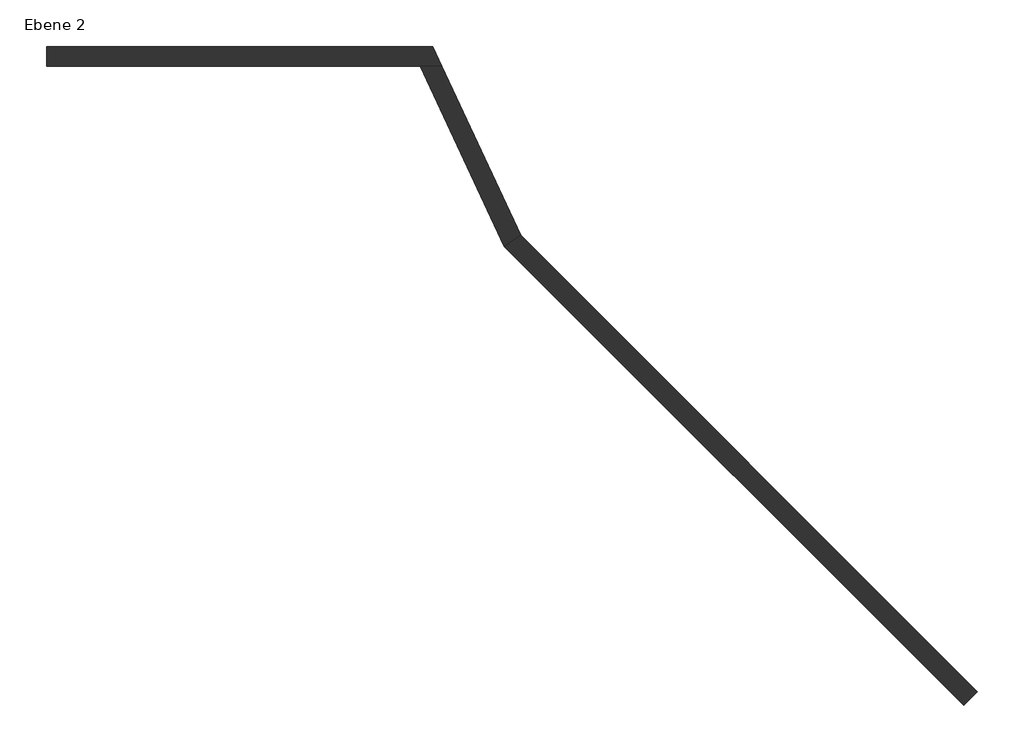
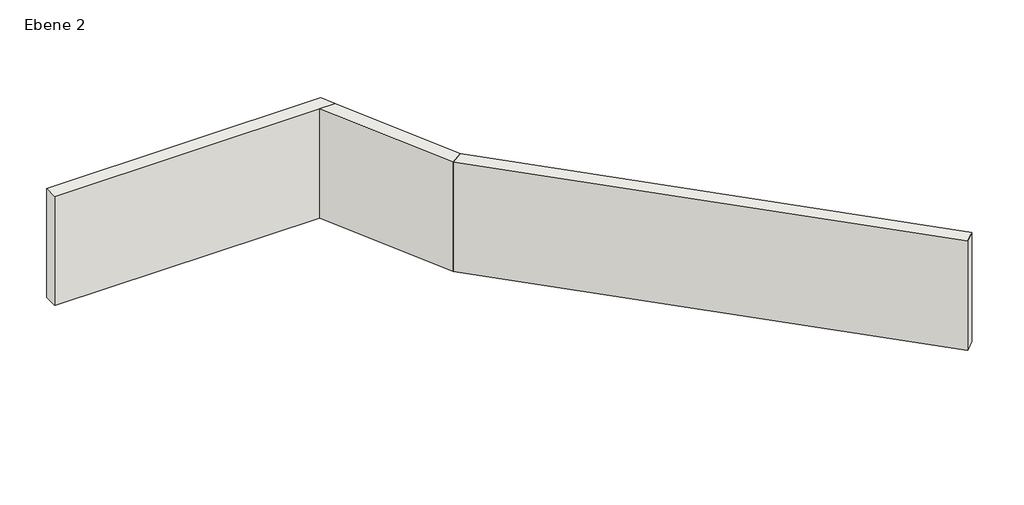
# One storey: 3 walls.
"""IFC4 building model written with IfcOpenShell, lengths in millimetres."""

from ifc_helpers import new_model, si_unit, frame, origin, place, context, project, spatial, polyline, outline, extrude, faceted_brep, element, save

model = new_model("IFC4")

# Units and contexts
model_context = context("Model", 3, world=origin())
ifc_project = project(units=[si_unit("LENGTHUNIT", "METRE", prefix="MILLI")], contexts=[model_context])

# Site, building, storey
site = spatial("IfcSite", under=ifc_project)
building = spatial("IfcBuilding", under=site)
storey = spatial("IfcBuildingStorey", under=building, Name="Ebene 2", Elevation=6000.0)

# Walls
placement = place(None, origin())
element("IfcWall", 1, ObjectType="MW 24.0 WD 12.0", at=placement, inside=storey, context=model_context, shape_type="Brep", body=[
    faceted_brep([(-8346.7849545, 5247.6869947, 6000.0), (-1461.4576015, 5247.6869947, 6000.0), (-1064.2415507, 5247.6869947, 6000.0), (-1064.2415507, 5247.6869947, 9000.0), (-1461.4576015, 5247.6869947, 9000.0), (-8346.7849545, 5247.6869947, 9000.0), (-8346.7849545, 5607.6869947, 6000.0), (-8346.7849545, 5607.6869947, 9000.0), (-1232.1123076, 5607.6869947, 9000.0), (-1232.1123076, 5607.6869947, 6000.0)], [[[0, 1, 2, 3, 4, 5]], [[6, 7, 8, 9]], [[2, 1, 0, 6, 9]], [[5, 4, 3, 8, 7]], [[0, 5, 7, 6]], [[3, 2, 9, 8]]]),
])
element("IfcWall", 2, ObjectType="MW 24.0 WD 12.0", at=placement, inside=storey, context=model_context, shape_type="SweptSolid", body=[
    extrude(outline(polyline([(88.9207422, 1922.8899073), (-1461.4576015, 5247.6869947), (-1064.2415507, 5247.6869947), (388.3647048, 2132.5628271), (88.9207422, 1922.8899073)])), frame((0.0, 0.0, 6000.0), z_axis=(0.0, 0.0, 1.0), x_axis=(1.0, 0.0, 0.0)), (0.0, 0.0, 1.0), 3000.0),
])
element("IfcWall", 3, ObjectType="MW 24.0 WD 12.0", at=placement, inside=storey, context=model_context, shape_type="SweptSolid", body=[
    extrude(outline(polyline([(8553.609937, -6541.7992875), (88.9207422, 1922.8899073), (388.3647048, 2132.5628271), (8808.1683782, -6287.2408463), (8553.609937, -6541.7992875)])), frame((0.0, 0.0, 6000.0), z_axis=(0.0, 0.0, 1.0), x_axis=(1.0, 0.0, 0.0)), (0.0, 0.0, 1.0), 3000.0),
])

save(model, "model.ifc")
